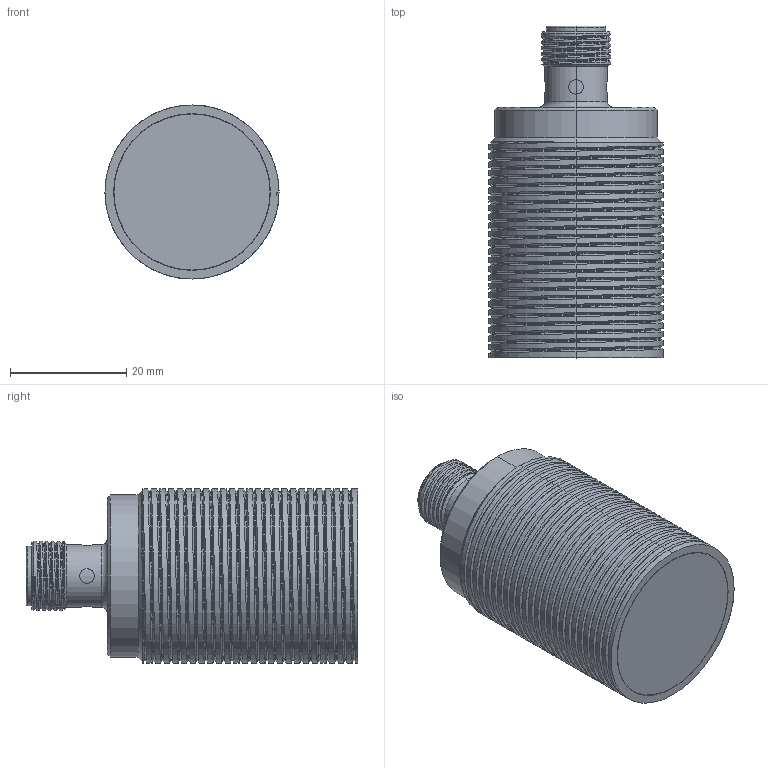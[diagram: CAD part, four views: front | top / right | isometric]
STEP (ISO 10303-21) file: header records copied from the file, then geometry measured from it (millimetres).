
FILE_DESCRIPTION (( 'STEP AP203' ), '1' );
FILE_NAME ('M30 ょす.STEP', '2025-08-12T02:18:25', ( 'holysai' ), ( '' ), 'SwSTEP 2.0', 'SolidWorks 2022', '' );
FILE_SCHEMA (( 'CONFIG_CONTROL_DESIGN' ));
Length unit declared in the file: millimetre
Products named in the file (1): M30 齐平
Bounding box: 30 x 57.2 x 30 mm (x, y, z)
Volume: 30444.9 mm3; surface area: 8326.2 mm2
Topology: 1 solids, 1 shells, 189 faces, 493 edges, 320 vertices
Faces by surface type: cylinder 120, plane 35, cone 24, bspline 6, torus 4
Entity records: 11302 total; most frequent: CARTESIAN_POINT 6916, ORIENTED_EDGE 986, DIRECTION 835, EDGE_CURVE 493, AXIS2_PLACEMENT_3D 326, VERTEX_POINT 320, EDGE_LOOP 211, ADVANCED_FACE 189
